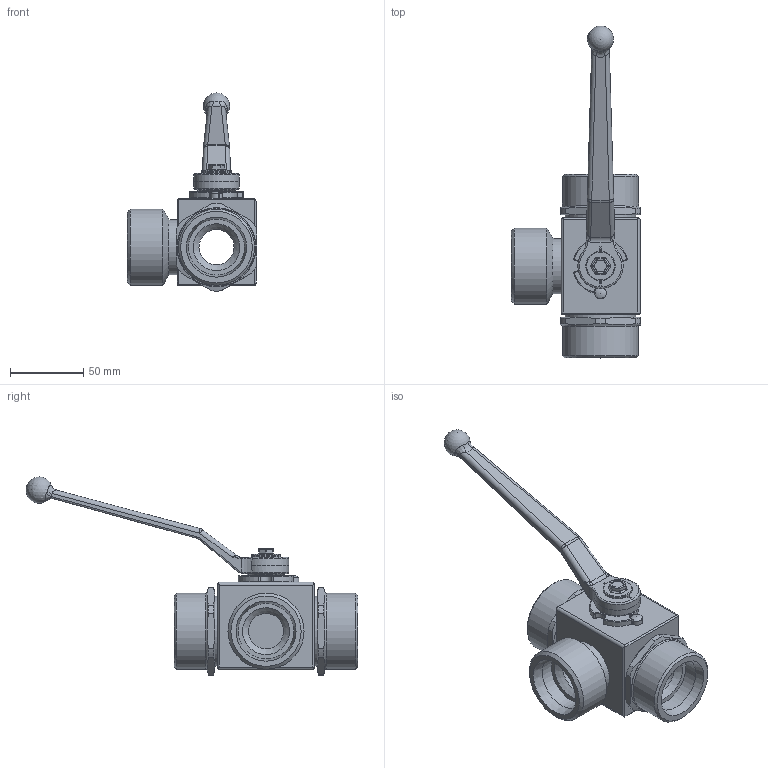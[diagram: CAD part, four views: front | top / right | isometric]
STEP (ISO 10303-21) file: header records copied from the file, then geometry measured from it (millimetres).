
FILE_DESCRIPTION( ( 'Unknown' ), '1' );
FILE_NAME( 'H:/PISTER/3D-MODELLE/BK3 stp/BK3 DN25 38S.stp', 'Unknown', ( 'Unknown' ), ( 'Unknown' ), 'PSStep 14.0', 'Unknown', ' ' );
FILE_SCHEMA( ( 'AUTOMOTIVE_DESIGN { 1 0 10303 214 1 1 1 1 }' ) );
Length unit declared in the file: millimetre
Products named in the file (11): Assem1; 10-025-001; 06-025-186-oa7; 09-14-001; 58-28740-13-oa8; Griff_SW14; 58-0933-147; 04-025-153-oa9; 04-025-153-oa10; 01-025-024-oa11; 04-025-068-oa12
Assembly tree (10 placements, depth 2):
  Assem1
    10-025-001
    06-025-186-oa7
    09-14-001
    58-28740-13-oa8
    Griff_SW14
    58-0933-147
    04-025-153-oa9
    04-025-153-oa10
    01-025-024-oa11
    04-025-068-oa12
Bounding box: 88.5 x 226.68 x 135.4 mm (x, y, z)
Volume: 169017.9 mm3; surface area: 82798.1 mm2
Topology: 10 solids, 10 shells, 378 faces, 930 edges, 570 vertices
Faces by surface type: plane 135, cylinder 129, torus 46, bspline 28, cone 26, sphere 14
Full cylindrical faces by diameter (mm): 5 x1, 6 x1, 6.5 x1, 7.98 x1, 20 x3, 20.2 x1, 24 x3, 25 x1, 37.8 x1, 38 x2, 38.3 x2, 43.3 x2, 48 x2, 50 x2, 51 x2, 52 x3
Entity records: 15246 total; most frequent: CARTESIAN_POINT 3615, DIRECTION 1847, ORIENTED_EDGE 1630, EDGE_CURVE 815, AXIS2_PLACEMENT_3D 759, VERTEX_POINT 540, EDGE_LOOP 480, FACE_OUTER_BOUND 421
